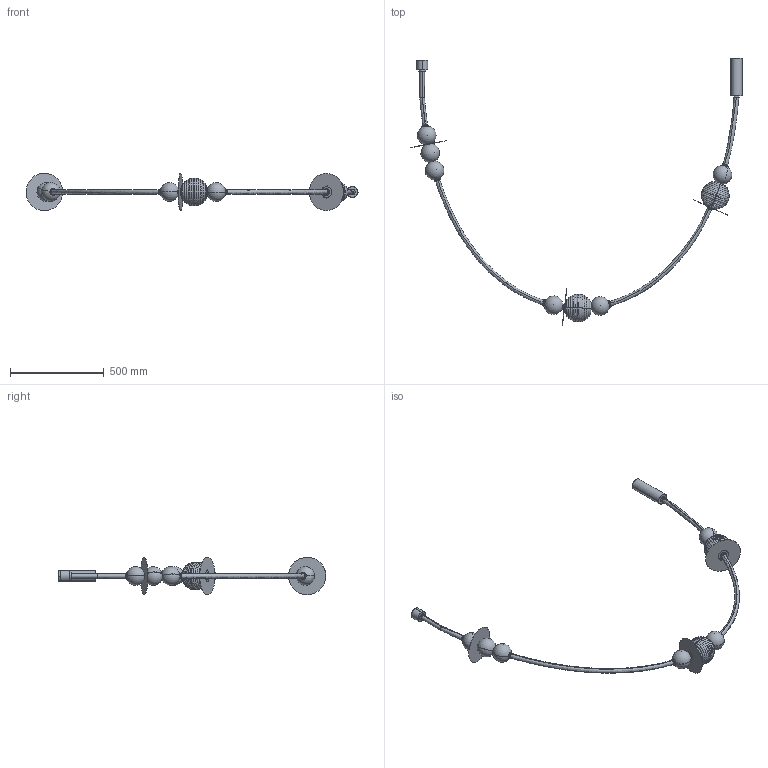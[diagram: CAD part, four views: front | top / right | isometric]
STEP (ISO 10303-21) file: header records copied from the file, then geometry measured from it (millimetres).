
FILE_DESCRIPTION (( 'STEP AP214' ), '1' );
FILE_NAME ('YMA_C1347_H_3M.STEP', '2026-08-13T13:58:47', ( '' ), ( '' ), 'SwSTEP 2.0', 'SolidWorks 2023', '' );
FILE_SCHEMA (( 'AUTOMOTIVE_DESIGN' ));
Length unit declared in the file: millimetre
Products named in the file (6): 1347_disc20; 1347_ball_10; 1347_14T (curly ball); 1347_tapa; YMA_C1347_H_3M; YMA_C1347_TUBE_3M
Assembly tree (19 placements, depth 2):
  YMA_C1347_H_3M
    YMA_C1347_TUBE_3M
    1347_ball_10  x6
    1347_disc20  x3
    1347_tapa  x7
    1347_14T (curly ball)  x2
Bounding box: 1775.11 x 1429.53 x 200 mm (x, y, z)
Volume: 1047963.8 mm3; surface area: 1446995 mm2
Topology: 19 solids, 19 shells, 363 faces, 830 edges, 512 vertices
Faces by surface type: torus 128, cylinder 122, plane 69, sphere 24, cone 16, bspline 4
Entity records: 12343 total; most frequent: CARTESIAN_POINT 8703, DIRECTION 878, ORIENTED_EDGE 612, AXIS2_PLACEMENT_3D 415, EDGE_CURVE 306, CIRCLE 246, VERTEX_POINT 184, EDGE_LOOP 178
